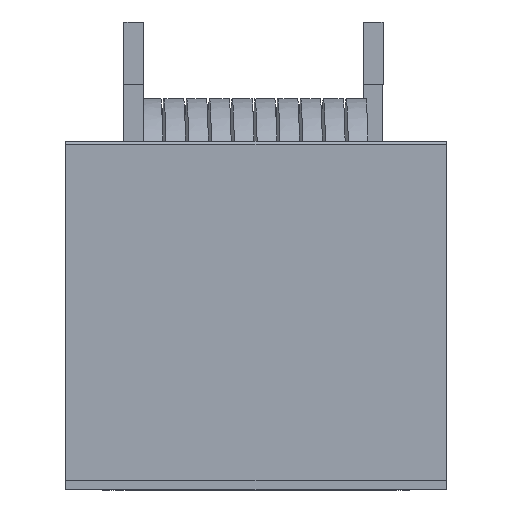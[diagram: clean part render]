
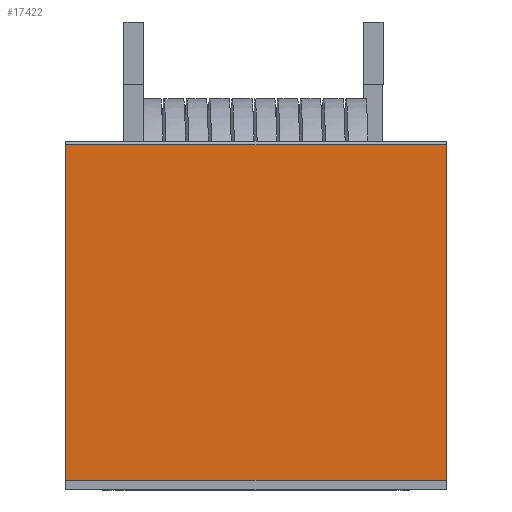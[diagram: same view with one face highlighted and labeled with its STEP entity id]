
A CAD part, left-side view. The second image highlights one B-rep face of the part: STEP entity #17422.
In plain terms, the highlighted planar face has unit normal (-1, 0, 0).
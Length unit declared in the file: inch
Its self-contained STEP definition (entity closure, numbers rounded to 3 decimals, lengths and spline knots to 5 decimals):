
#178 = CARTESIAN_POINT ( 'NONE',  ( -1.68, 0.08, 3.2 ) ) ;
#252 = VERTEX_POINT ( 'NONE', #178 ) ;
#1166 = DIRECTION ( 'NONE',  ( 0., 0., -1. ) ) ;
#1578 = ORIENTED_EDGE ( 'NONE', *, *, #26475, .T. ) ;
#2620 = VECTOR ( 'NONE', #5465, 39.37008 ) ;
#2729 = EDGE_LOOP ( 'NONE', ( #24827, #17681, #1578, #2945 ) ) ;
#2784 = VERTEX_POINT ( 'NONE', #7945 ) ;
#2945 = ORIENTED_EDGE ( 'NONE', *, *, #29104, .F. ) ;
#3160 = DIRECTION ( 'NONE',  ( 1., 0., 0. ) ) ;
#5465 = DIRECTION ( 'NONE',  ( 0., 0., -1. ) ) ;
#7866 = LINE ( 'NONE', #10304, #2620 ) ;
#7945 = CARTESIAN_POINT ( 'NONE',  ( -1.68, 2.9, 0. ) ) ;
#8945 = VECTOR ( 'NONE', #22209, 39.37008 ) ;
#9579 = VECTOR ( 'NONE', #12368, 39.37008 ) ;
#10304 = CARTESIAN_POINT ( 'NONE',  ( -1.68, 0.08, 3.2 ) ) ;
#10459 = CARTESIAN_POINT ( 'NONE',  ( -1.68, 2.93, 3.2 ) ) ;
#10926 = EDGE_CURVE ( 'NONE', #12755, #252, #15255, .T. ) ;
#11578 = CARTESIAN_POINT ( 'NONE',  ( -1.68, 2.9, 3.2 ) ) ;
#12368 = DIRECTION ( 'NONE',  ( 0., 0., -1. ) ) ;
#12417 = PLANE ( 'NONE',  #27847 ) ;
#12755 = VERTEX_POINT ( 'NONE', #11578 ) ;
#14930 = LINE ( 'NONE', #17649, #8945 ) ;
#15255 = LINE ( 'NONE', #10459, #19814 ) ;
#17422 = ADVANCED_FACE ( 'NONE', ( #23009 ), #12417, .F. ) ;
#17649 = CARTESIAN_POINT ( 'NONE',  ( -1.68, 2.93, 0. ) ) ;
#17681 = ORIENTED_EDGE ( 'NONE', *, *, #29059, .T. ) ;
#19814 = VECTOR ( 'NONE', #26066, 39.37008 ) ;
#21499 = CARTESIAN_POINT ( 'NONE',  ( -1.68, 2.93, 3.2 ) ) ;
#21572 = LINE ( 'NONE', #28274, #9579 ) ;
#22209 = DIRECTION ( 'NONE',  ( 0., -1., 0. ) ) ;
#22679 = VERTEX_POINT ( 'NONE', #28211 ) ;
#23009 = FACE_OUTER_BOUND ( 'NONE', #2729, .T. ) ;
#24827 = ORIENTED_EDGE ( 'NONE', *, *, #10926, .F. ) ;
#26066 = DIRECTION ( 'NONE',  ( 0., -1., 0. ) ) ;
#26475 = EDGE_CURVE ( 'NONE', #2784, #22679, #14930, .T. ) ;
#27847 = AXIS2_PLACEMENT_3D ( 'NONE', #21499, #3160, #1166 ) ;
#28211 = CARTESIAN_POINT ( 'NONE',  ( -1.68, 0.08, 0. ) ) ;
#28274 = CARTESIAN_POINT ( 'NONE',  ( -1.68, 2.9, 3.2 ) ) ;
#29059 = EDGE_CURVE ( 'NONE', #12755, #2784, #21572, .T. ) ;
#29104 = EDGE_CURVE ( 'NONE', #252, #22679, #7866, .T. ) ;
